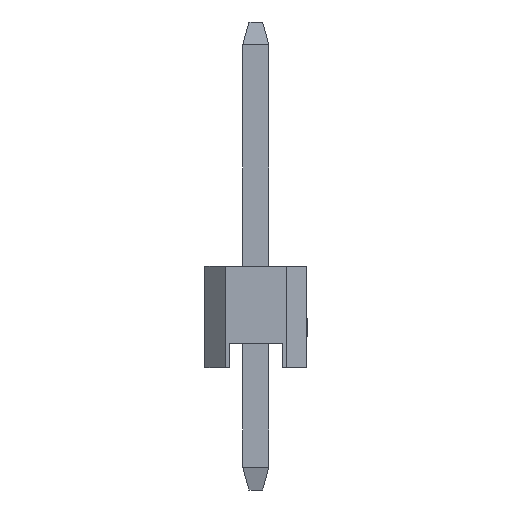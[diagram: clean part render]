
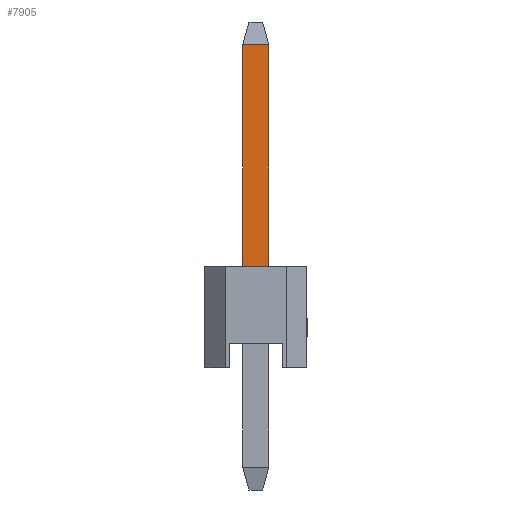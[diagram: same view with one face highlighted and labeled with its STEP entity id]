
A CAD part, left-side view. The second image highlights one B-rep face of the part: STEP entity #7905.
In plain terms, the highlighted planar face has unit normal (-1, 0, 0).
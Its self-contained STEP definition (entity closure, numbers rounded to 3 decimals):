
#349 = LINE ( 'NONE', #16273, #8698 ) ;
#381 = ORIENTED_EDGE ( 'NONE', *, *, #9643, .T. ) ;
#464 = CARTESIAN_POINT ( 'NONE',  ( -16.83, -0.32, 2.5 ) ) ;
#1352 = VECTOR ( 'NONE', #4212, 1000. ) ;
#3458 = DIRECTION ( 'NONE',  ( 0., 0., -1. ) ) ;
#4212 = DIRECTION ( 'NONE',  ( 0., 1., 0. ) ) ;
#4416 = EDGE_LOOP ( 'NONE', ( #16120, #381, #9761, #11290 ) ) ;
#5791 = EDGE_CURVE ( 'NONE', #24633, #12709, #15635, .T. ) ;
#5828 = DIRECTION ( 'NONE',  ( 0., 0., 1. ) ) ;
#7092 = VERTEX_POINT ( 'NONE', #464 ) ;
#7285 = PLANE ( 'NONE',  #22008 ) ;
#7905 = ADVANCED_FACE ( 'NONE', ( #15374 ), #7285, .T. ) ;
#7982 = EDGE_CURVE ( 'NONE', #7092, #12709, #349, .T. ) ;
#8698 = VECTOR ( 'NONE', #14066, 1000. ) ;
#9355 = DIRECTION ( 'NONE',  ( 0., 0., -1. ) ) ;
#9643 = EDGE_CURVE ( 'NONE', #11049, #24633, #21852, .T. ) ;
#9761 = ORIENTED_EDGE ( 'NONE', *, *, #5791, .T. ) ;
#11049 = VERTEX_POINT ( 'NONE', #17386 ) ;
#11290 = ORIENTED_EDGE ( 'NONE', *, *, #7982, .F. ) ;
#11449 = CARTESIAN_POINT ( 'NONE',  ( -16.83, -0.32, 8.5 ) ) ;
#11716 = CARTESIAN_POINT ( 'NONE',  ( -16.83, 0.32, 2.5 ) ) ;
#12709 = VERTEX_POINT ( 'NONE', #11716 ) ;
#13421 = CARTESIAN_POINT ( 'NONE',  ( -16.83, 0.32, 8.5 ) ) ;
#14066 = DIRECTION ( 'NONE',  ( 0., 1., 0. ) ) ;
#15374 = FACE_OUTER_BOUND ( 'NONE', #4416, .T. ) ;
#15635 = LINE ( 'NONE', #13421, #23292 ) ;
#16120 = ORIENTED_EDGE ( 'NONE', *, *, #21108, .F. ) ;
#16273 = CARTESIAN_POINT ( 'NONE',  ( -16.83, 0., 2.5 ) ) ;
#16944 = CARTESIAN_POINT ( 'NONE',  ( -16.83, 0.32, 7.94 ) ) ;
#17386 = CARTESIAN_POINT ( 'NONE',  ( -16.83, -0.32, 7.94 ) ) ;
#20152 = CARTESIAN_POINT ( 'NONE',  ( -16.83, 0., 7.94 ) ) ;
#21108 = EDGE_CURVE ( 'NONE', #11049, #7092, #23130, .T. ) ;
#21483 = DIRECTION ( 'NONE',  ( -1., 0., 0. ) ) ;
#21852 = LINE ( 'NONE', #20152, #1352 ) ;
#22008 = AXIS2_PLACEMENT_3D ( 'NONE', #23704, #21483, #5828 ) ;
#23130 = LINE ( 'NONE', #11449, #23811 ) ;
#23292 = VECTOR ( 'NONE', #3458, 1000. ) ;
#23704 = CARTESIAN_POINT ( 'NONE',  ( -16.83, 0., 0. ) ) ;
#23811 = VECTOR ( 'NONE', #9355, 1000. ) ;
#24633 = VERTEX_POINT ( 'NONE', #16944 ) ;
